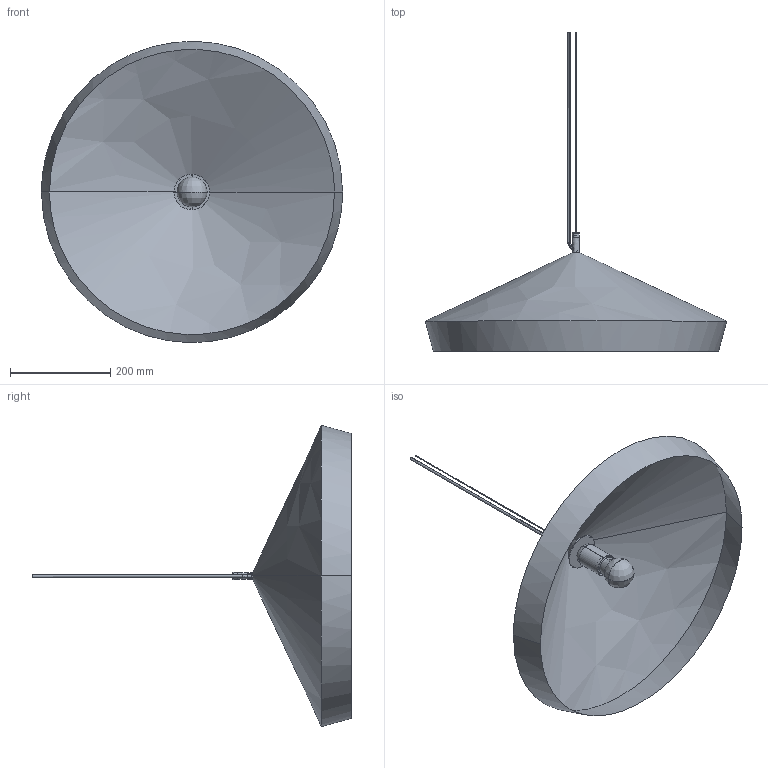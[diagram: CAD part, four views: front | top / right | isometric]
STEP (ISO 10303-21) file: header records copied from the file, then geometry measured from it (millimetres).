
FILE_DESCRIPTION(/* description */ (''),/* implementation_level */ '2;1');
FILE_NAME(/* name */ 'Flat',/* time_stamp */ '2022-07-12T12:20:43+01:00',/* author */ (''),/* organization */ (''),/* preprocessor_version */ 'ST-DEVELOPER v16.5',/* originating_system */ '',/* authorisation */ '');
FILE_SCHEMA (('AUTOMOTIVE_DESIGN'));
Length unit declared in the file: millimetre
Products named in the file (10): Document; e27 holdersc24; M10x35 ROD22; BLA02 - Tail stalk16; LAMP COVER14; ceiling rose tip for tinsel wire10; BLA02 - cone part8; E27___4; E27 GLS 01; Block 02
Assembly tree (9 placements, depth 3):
  Document
    e27 holdersc24
    M10x35 ROD22
    BLA02 - Tail stalk16
    LAMP COVER14
    ceiling rose tip for tinsel wire10
    BLA02 - cone part8
    E27___4
    E27 GLS 01
      Block 02
Bounding box: 600 x 635.18 x 599.86 mm (x, y, z)
Volume: 180284.3 mm3; surface area: 533197.4 mm2
Topology: 8 solids, 15 shells, 444 faces, 1225 edges, 777 vertices
Faces by surface type: bspline 272, plane 172
Entity records: 37456 total; most frequent: CARTESIAN_POINT 30094, ORIENTED_EDGE 2384, EDGE_CURVE 1215, VERTEX_POINT 777, B_SPLINE_CURVE_WITH_KNOTS 729, EDGE_LOOP 481, ADVANCED_FACE 444, FACE_OUTER_BOUND 444
